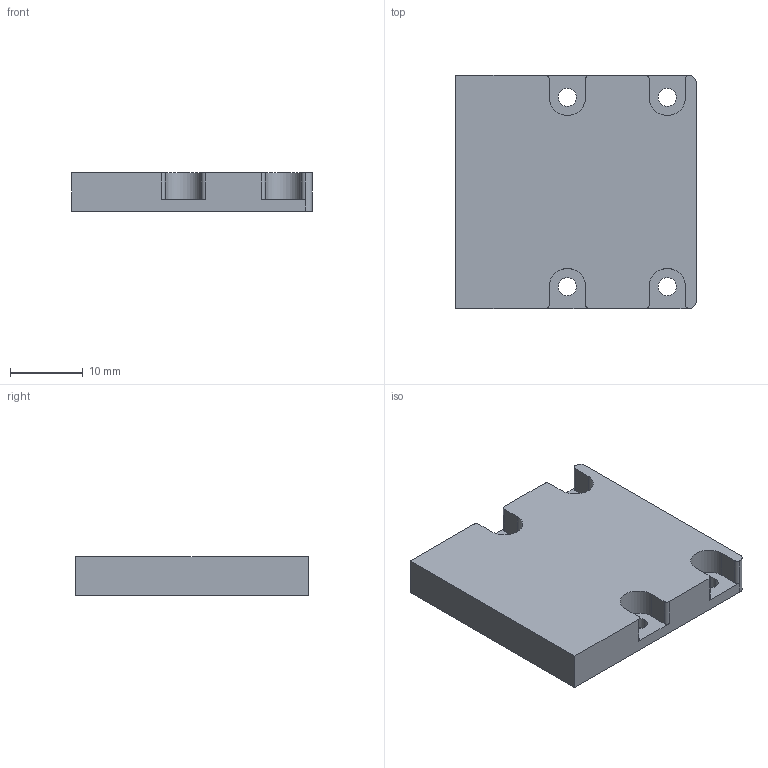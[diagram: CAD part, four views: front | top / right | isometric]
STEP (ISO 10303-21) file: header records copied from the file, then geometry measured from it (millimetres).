
FILE_DESCRIPTION (( 'STEP AP214' ), '1' );
FILE_NAME ('Pico Case Front.STEP', '2021-05-07T20:50:37', ( '' ), ( '' ), 'SwSTEP 2.0', 'SolidWorks 2020', '' );
FILE_SCHEMA (( 'AUTOMOTIVE_DESIGN' ));
Length unit declared in the file: millimetre
Products named in the file (1): Pico Case Front
Bounding box: 33.08 x 32 x 5.3 mm (x, y, z)
Volume: 5120.6 mm3; surface area: 2942.5 mm2
Topology: 1 solids, 1 shells, 44 faces, 124 edges, 82 vertices
Faces by surface type: cylinder 22, plane 22
Entity records: 1486 total; most frequent: DIRECTION 258, CARTESIAN_POINT 251, ORIENTED_EDGE 248, EDGE_CURVE 124, AXIS2_PLACEMENT_3D 89, VERTEX_POINT 82, VECTOR 80, LINE 80
